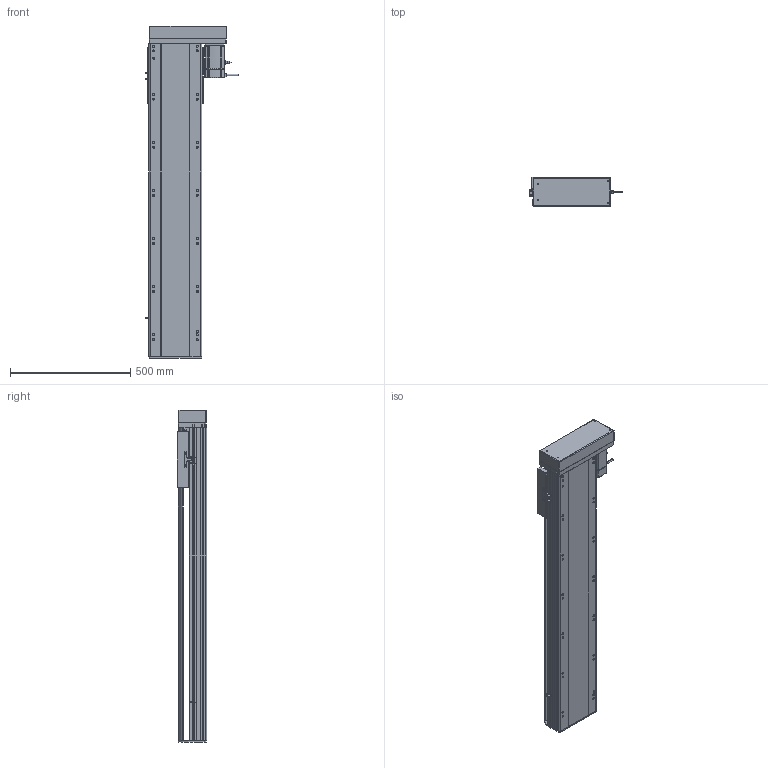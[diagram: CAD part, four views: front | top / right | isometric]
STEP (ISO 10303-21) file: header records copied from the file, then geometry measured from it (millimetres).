
FILE_DESCRIPTION (( 'STEP AP214' ), '1' );
FILE_NAME ('RTH22-XX-1000-L-M75-C4.STEP', '2025-10-24T11:00:24', ( 'Microsoft' ), ( 'Microsoft' ), 'SwSTEP 2.0', 'SolidWorks 2018', '' );
FILE_SCHEMA (( 'AUTOMOTIVE_DESIGN' ));
Length unit declared in the file: millimetre
Products named in the file (10): N_RTH22-L-004-SFS25賑釱^RTH22-XX-XX-L-M75-C4; N_RTH22-L-007奻裔^RTH22-XX-XX-L-M75-C4; N_750W萇儂^RTH22-XX-XX-L-M75-C4; N_RTH22-GY-001耜裔^RTH22-XX-XX-L-M75-C4; N_RTH22-GY-013外置感应片^RTH22-XX-XX-L-M75-C4; N_RTH22-L-008-P75萇儂啣^RTH22-XX-XX-L-M75-C4; N_RTH22-L-018裔赽^RTH22-XX-XX-L-M75-C4; N_OMRON EE-SX672 传感器^RTH22-XX-XX-L-M75-C4; N_RTH22-L-011菁釱^RTH22-XX-XX-L-M75-C4; RTH22-XX-1000-L-M75-C4
Assembly tree (11 placements, depth 2):
  RTH22-XX-1000-L-M75-C4
    N_RTH22-L-011菁釱^RTH22-XX-XX-L-M75-C4
    N_RTH22-GY-001耜裔^RTH22-XX-XX-L-M75-C4
    N_750W萇儂^RTH22-XX-XX-L-M75-C4
    N_RTH22-L-008-P75萇儂啣^RTH22-XX-XX-L-M75-C4
    N_RTH22-L-007奻裔^RTH22-XX-XX-L-M75-C4
    N_RTH22-L-018裔赽^RTH22-XX-XX-L-M75-C4
    N_OMRON EE-SX672 传感器^RTH22-XX-XX-L-M75-C4  x3
    N_RTH22-GY-013外置感应片^RTH22-XX-XX-L-M75-C4
    N_RTH22-L-004-SFS25賑釱^RTH22-XX-XX-L-M75-C4
Bounding box: 384.7 x 122 x 1379.7 mm (x, y, z)
Volume: 18902661.3 mm3; surface area: 2113388.7 mm2
Topology: 11 solids, 11 shells, 1606 faces, 4379 edges, 2821 vertices
Faces by surface type: plane 795, cylinder 470, bspline 279, cone 62
Entity records: 40335 total; most frequent: CARTESIAN_POINT 12262, ORIENTED_EDGE 5726, DIRECTION 5413, EDGE_CURVE 2863, VERTEX_POINT 1857, AXIS2_PLACEMENT_3D 1824, LINE 1765, VECTOR 1765
